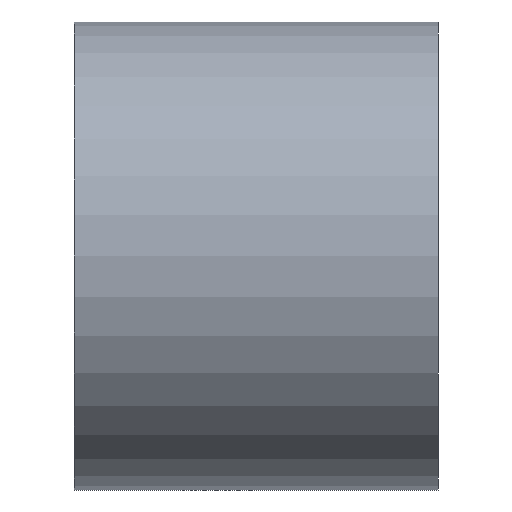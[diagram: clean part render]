
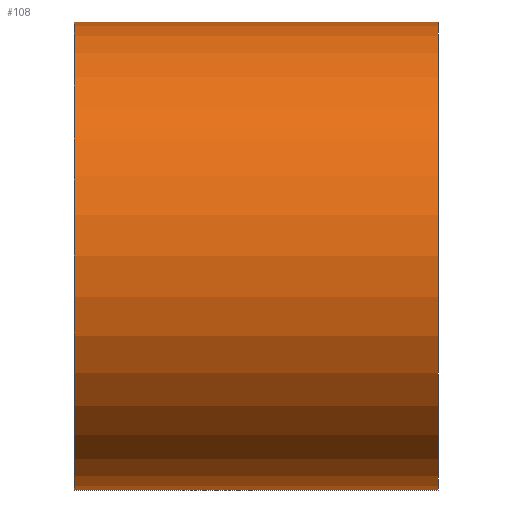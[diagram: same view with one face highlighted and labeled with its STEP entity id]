
A CAD part, front view. The second image highlights one B-rep face of the part: STEP entity #108.
In plain terms, the highlighted cylindrical face has radius 360 mm (diameter 720 mm), a partial arc.
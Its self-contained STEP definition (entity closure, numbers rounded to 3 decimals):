
#108=ADVANCED_FACE('',(#212),#213,.T.);
#212=FACE_OUTER_BOUND('',#335,.T.);
#213=CYLINDRICAL_SURFACE('',#336,360.0);
#335=EDGE_LOOP('',(#587,#588,#589,#590));
#336=AXIS2_PLACEMENT_3D('',#591,#592,#593);
#587=ORIENTED_EDGE('',*,*,#659,.T.);
#588=ORIENTED_EDGE('',*,*,#768,.F.);
#589=ORIENTED_EDGE('',*,*,#661,.T.);
#590=ORIENTED_EDGE('',*,*,#769,.F.);
#591=CARTESIAN_POINT('',(0.0,0.0,0.0));
#592=DIRECTION('',(1.0,0.0,0.0));
#593=DIRECTION('',(0.0,0.0,-1.0));
#659=EDGE_CURVE('',#773,#774,#775,.T.);
#661=EDGE_CURVE('',#778,#776,#779,.T.);
#768=EDGE_CURVE('',#778,#774,#938,.T.);
#769=EDGE_CURVE('',#773,#776,#939,.T.);
#773=VERTEX_POINT('',#943);
#774=VERTEX_POINT('',#944);
#775=LINE('',#945,#946);
#776=VERTEX_POINT('',#947);
#778=VERTEX_POINT('',#949);
#779=LINE('',#950,#951);
#938=CIRCLE('',#1136,360.0);
#939=CIRCLE('',#1137,360.0);
#943=CARTESIAN_POINT('',(-280.0,0.0,-360.0));
#944=CARTESIAN_POINT('',(280.0,0.0,-360.0));
#945=CARTESIAN_POINT('',(0.0,0.,-360.0));
#946=VECTOR('',#1140,1.0);
#947=CARTESIAN_POINT('',(-280.0,0.,360.0));
#949=CARTESIAN_POINT('',(280.0,0.,360.0));
#950=CARTESIAN_POINT('',(0.0,0.,360.0));
#951=VECTOR('',#1144,1.0);
#1136=AXIS2_PLACEMENT_3D('',#1330,#1331,#1332);
#1137=AXIS2_PLACEMENT_3D('',#1333,#1334,#1335);
#1140=DIRECTION('',(1.0,0.0,0.0));
#1144=DIRECTION('',(-1.0,-0.0,-0.0));
#1330=CARTESIAN_POINT('',(280.0,0.0,0.0));
#1331=DIRECTION('',(1.0,0.0,0.0));
#1332=DIRECTION('',(0.0,0.0,-1.0));
#1333=CARTESIAN_POINT('',(-280.0,0.0,0.0));
#1334=DIRECTION('',(-1.0,0.0,0.0));
#1335=DIRECTION('',(0.0,0.0,-1.0));
